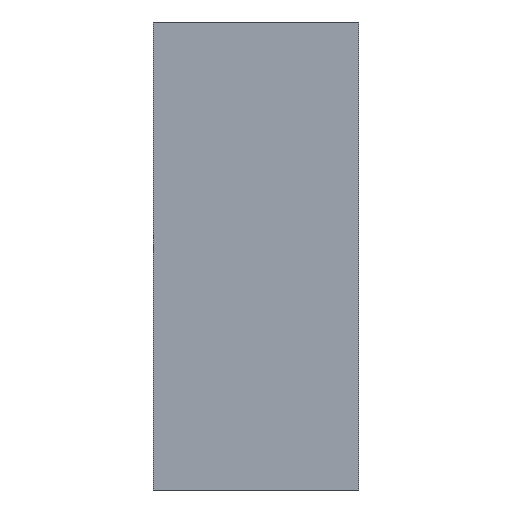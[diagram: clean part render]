
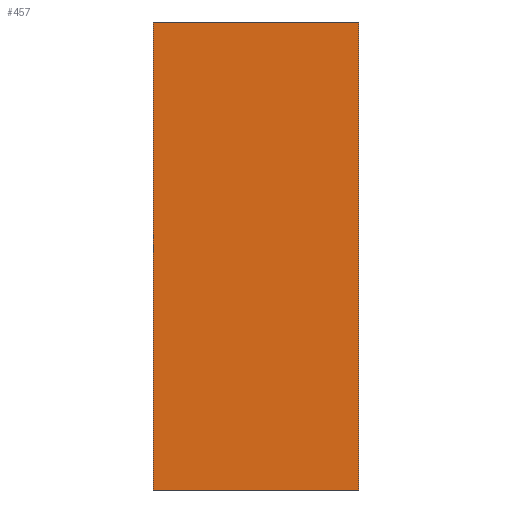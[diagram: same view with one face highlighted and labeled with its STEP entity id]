
A CAD part, front view. The second image highlights one B-rep face of the part: STEP entity #457.
In plain terms, the highlighted planar face has unit normal (0, -1, 0).
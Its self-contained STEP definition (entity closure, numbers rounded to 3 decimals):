
#24 = VERTEX_POINT('',#25);
#25 = CARTESIAN_POINT('',(-36.55,9.8,-16.5));
#32 = PLANE('',#33);
#33 = AXIS2_PLACEMENT_3D('',#34,#35,#36);
#34 = CARTESIAN_POINT('',(-36.55,12.2,-16.5));
#35 = DIRECTION('',(1.,0.,-0.));
#36 = DIRECTION('',(0.,0.,1.));
#44 = PLANE('',#45);
#45 = AXIS2_PLACEMENT_3D('',#46,#47,#48);
#46 = CARTESIAN_POINT('',(-36.55,12.2,-16.5));
#47 = DIRECTION('',(0.,0.,1.));
#48 = DIRECTION('',(1.,0.,-0.));
#305 = VERTEX_POINT('',#306);
#306 = CARTESIAN_POINT('',(-36.55,9.8,-5.));
#320 = PLANE('',#321);
#321 = AXIS2_PLACEMENT_3D('',#322,#323,#324);
#322 = CARTESIAN_POINT('',(-36.55,9.8,-5.));
#323 = DIRECTION('',(0.,0.,1.));
#324 = DIRECTION('',(1.,0.,-0.));
#332 = EDGE_CURVE('',#24,#305,#333,.T.);
#333 = SURFACE_CURVE('',#334,(#338,#345),.PCURVE_S1.);
#334 = LINE('',#335,#336);
#335 = CARTESIAN_POINT('',(-36.55,9.8,-16.5));
#336 = VECTOR('',#337,1.);
#337 = DIRECTION('',(0.,0.,1.));
#338 = PCURVE('',#32,#339);
#339 = DEFINITIONAL_REPRESENTATION('',(#340),#344);
#340 = LINE('',#341,#342);
#341 = CARTESIAN_POINT('',(0.,2.4));
#342 = VECTOR('',#343,1.);
#343 = DIRECTION('',(1.,0.));
#344 = ( GEOMETRIC_REPRESENTATION_CONTEXT(2) 
PARAMETRIC_REPRESENTATION_CONTEXT() REPRESENTATION_CONTEXT('2D SPACE',''
  ) );
#345 = PCURVE('',#346,#351);
#346 = PLANE('',#347);
#347 = AXIS2_PLACEMENT_3D('',#348,#349,#350);
#348 = CARTESIAN_POINT('',(-36.55,9.8,-16.5));
#349 = DIRECTION('',(-0.,1.,0.));
#350 = DIRECTION('',(0.,0.,1.));
#351 = DEFINITIONAL_REPRESENTATION('',(#352),#356);
#352 = LINE('',#353,#354);
#353 = CARTESIAN_POINT('',(0.,0.));
#354 = VECTOR('',#355,1.);
#355 = DIRECTION('',(1.,0.));
#356 = ( GEOMETRIC_REPRESENTATION_CONTEXT(2) 
PARAMETRIC_REPRESENTATION_CONTEXT() REPRESENTATION_CONTEXT('2D SPACE',''
  ) );
#361 = EDGE_CURVE('',#24,#362,#364,.T.);
#362 = VERTEX_POINT('',#363);
#363 = CARTESIAN_POINT('',(-31.5,9.8,-16.5));
#364 = SURFACE_CURVE('',#365,(#369,#376),.PCURVE_S1.);
#365 = LINE('',#366,#367);
#366 = CARTESIAN_POINT('',(-36.55,9.8,-16.5));
#367 = VECTOR('',#368,1.);
#368 = DIRECTION('',(1.,0.,-0.));
#369 = PCURVE('',#44,#370);
#370 = DEFINITIONAL_REPRESENTATION('',(#371),#375);
#371 = LINE('',#372,#373);
#372 = CARTESIAN_POINT('',(0.,-2.4));
#373 = VECTOR('',#374,1.);
#374 = DIRECTION('',(1.,0.));
#375 = ( GEOMETRIC_REPRESENTATION_CONTEXT(2) 
PARAMETRIC_REPRESENTATION_CONTEXT() REPRESENTATION_CONTEXT('2D SPACE',''
  ) );
#376 = PCURVE('',#346,#377);
#377 = DEFINITIONAL_REPRESENTATION('',(#378),#382);
#378 = LINE('',#379,#380);
#379 = CARTESIAN_POINT('',(0.,0.));
#380 = VECTOR('',#381,1.);
#381 = DIRECTION('',(0.,1.));
#382 = ( GEOMETRIC_REPRESENTATION_CONTEXT(2) 
PARAMETRIC_REPRESENTATION_CONTEXT() REPRESENTATION_CONTEXT('2D SPACE',''
  ) );
#400 = PLANE('',#401);
#401 = AXIS2_PLACEMENT_3D('',#402,#403,#404);
#402 = CARTESIAN_POINT('',(-31.5,12.2,-16.5));
#403 = DIRECTION('',(1.,0.,-0.));
#404 = DIRECTION('',(0.,0.,1.));
#457 = ADVANCED_FACE('',(#458),#346,.F.);
#458 = FACE_BOUND('',#459,.F.);
#459 = EDGE_LOOP('',(#460,#461,#462,#485));
#460 = ORIENTED_EDGE('',*,*,#361,.F.);
#461 = ORIENTED_EDGE('',*,*,#332,.T.);
#462 = ORIENTED_EDGE('',*,*,#463,.T.);
#463 = EDGE_CURVE('',#305,#464,#466,.T.);
#464 = VERTEX_POINT('',#465);
#465 = CARTESIAN_POINT('',(-31.5,9.8,-5.));
#466 = SURFACE_CURVE('',#467,(#471,#478),.PCURVE_S1.);
#467 = LINE('',#468,#469);
#468 = CARTESIAN_POINT('',(-36.55,9.8,-5.));
#469 = VECTOR('',#470,1.);
#470 = DIRECTION('',(1.,0.,-0.));
#471 = PCURVE('',#346,#472);
#472 = DEFINITIONAL_REPRESENTATION('',(#473),#477);
#473 = LINE('',#474,#475);
#474 = CARTESIAN_POINT('',(11.5,0.));
#475 = VECTOR('',#476,1.);
#476 = DIRECTION('',(0.,1.));
#477 = ( GEOMETRIC_REPRESENTATION_CONTEXT(2) 
PARAMETRIC_REPRESENTATION_CONTEXT() REPRESENTATION_CONTEXT('2D SPACE',''
  ) );
#478 = PCURVE('',#320,#479);
#479 = DEFINITIONAL_REPRESENTATION('',(#480),#484);
#480 = LINE('',#481,#482);
#481 = CARTESIAN_POINT('',(0.,0.));
#482 = VECTOR('',#483,1.);
#483 = DIRECTION('',(1.,0.));
#484 = ( GEOMETRIC_REPRESENTATION_CONTEXT(2) 
PARAMETRIC_REPRESENTATION_CONTEXT() REPRESENTATION_CONTEXT('2D SPACE',''
  ) );
#485 = ORIENTED_EDGE('',*,*,#486,.F.);
#486 = EDGE_CURVE('',#362,#464,#487,.T.);
#487 = SURFACE_CURVE('',#488,(#492,#499),.PCURVE_S1.);
#488 = LINE('',#489,#490);
#489 = CARTESIAN_POINT('',(-31.5,9.8,-16.5));
#490 = VECTOR('',#491,1.);
#491 = DIRECTION('',(0.,0.,1.));
#492 = PCURVE('',#346,#493);
#493 = DEFINITIONAL_REPRESENTATION('',(#494),#498);
#494 = LINE('',#495,#496);
#495 = CARTESIAN_POINT('',(0.,5.05));
#496 = VECTOR('',#497,1.);
#497 = DIRECTION('',(1.,0.));
#498 = ( GEOMETRIC_REPRESENTATION_CONTEXT(2) 
PARAMETRIC_REPRESENTATION_CONTEXT() REPRESENTATION_CONTEXT('2D SPACE',''
  ) );
#499 = PCURVE('',#400,#500);
#500 = DEFINITIONAL_REPRESENTATION('',(#501),#505);
#501 = LINE('',#502,#503);
#502 = CARTESIAN_POINT('',(0.,2.4));
#503 = VECTOR('',#504,1.);
#504 = DIRECTION('',(1.,0.));
#505 = ( GEOMETRIC_REPRESENTATION_CONTEXT(2) 
PARAMETRIC_REPRESENTATION_CONTEXT() REPRESENTATION_CONTEXT('2D SPACE',''
  ) );
